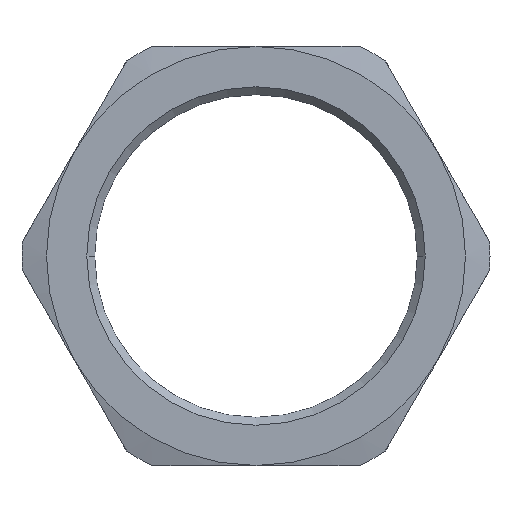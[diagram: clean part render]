
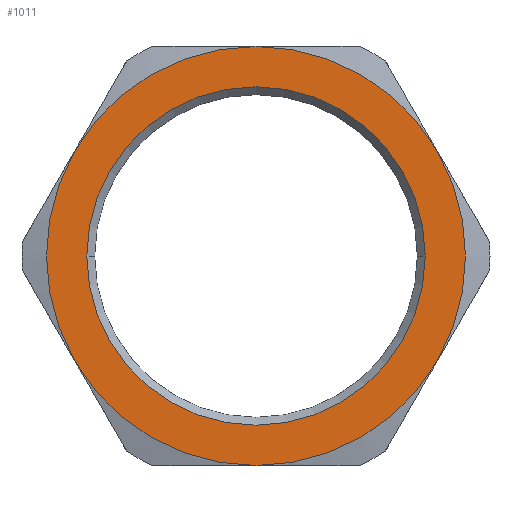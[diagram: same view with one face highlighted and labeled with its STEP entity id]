
A CAD part, left-side view. The second image highlights one B-rep face of the part: STEP entity #1011.
In plain terms, the highlighted planar face has unit normal (-1, 0, 0) as drawn and (0, 0, 1) by its records, which use the part's own axes.
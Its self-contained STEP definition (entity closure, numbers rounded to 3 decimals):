
#299=CARTESIAN_POINT('',(0.,26.25,5.));
#300=VERTEX_POINT('',#299);
#314=CARTESIAN_POINT('',(0.,-26.25,5.0));
#315=VERTEX_POINT('',#314);
#322=CARTESIAN_POINT('',(0.,0.,5.0));
#323=DIRECTION('',(0.0,0.0,-1.0));
#324=DIRECTION('',(0.0,1.0,0.0));
#325=AXIS2_PLACEMENT_3D('',#322,#323,#324);
#326=CIRCLE('',#325,26.25);
#327=EDGE_CURVE('',#300,#315,#326,.T.);
#338=CARTESIAN_POINT('',(0.,0.,5.0));
#339=DIRECTION('',(0.0,0.0,-1.0));
#340=DIRECTION('',(0.0,1.0,0.0));
#341=AXIS2_PLACEMENT_3D('',#338,#339,#340);
#342=CIRCLE('',#341,26.25);
#343=EDGE_CURVE('',#315,#300,#342,.T.);
#626=CARTESIAN_POINT('',(-32.5,0.,5.));
#627=VERTEX_POINT('',#626);
#641=CARTESIAN_POINT('',(-16.25,28.146,5.));
#642=VERTEX_POINT('',#641);
#643=CARTESIAN_POINT('',(0.,0.0,5.0));
#644=DIRECTION('',(0.0,0.0,1.0));
#645=DIRECTION('',(1.0,0.0,0.0));
#646=AXIS2_PLACEMENT_3D('',#643,#644,#645);
#647=CIRCLE('',#646,32.5);
#648=EDGE_CURVE('',#642,#627,#647,.T.);
#702=CARTESIAN_POINT('',(-16.25,-28.146,5.));
#703=VERTEX_POINT('',#702);
#717=CARTESIAN_POINT('',(0.,0.0,5.0));
#718=DIRECTION('',(0.0,0.0,1.0));
#719=DIRECTION('',(1.0,0.0,0.0));
#720=AXIS2_PLACEMENT_3D('',#717,#718,#719);
#721=CIRCLE('',#720,32.5);
#722=EDGE_CURVE('',#627,#703,#721,.T.);
#764=CARTESIAN_POINT('',(16.25,-28.146,5.));
#765=VERTEX_POINT('',#764);
#779=CARTESIAN_POINT('',(0.,0.0,5.0));
#780=DIRECTION('',(0.0,0.0,1.0));
#781=DIRECTION('',(1.0,0.0,0.0));
#782=AXIS2_PLACEMENT_3D('',#779,#780,#781);
#783=CIRCLE('',#782,32.5);
#784=EDGE_CURVE('',#703,#765,#783,.T.);
#827=CARTESIAN_POINT('',(32.5,0.0,5.));
#828=VERTEX_POINT('',#827);
#842=CARTESIAN_POINT('',(0.,0.0,5.0));
#843=DIRECTION('',(0.0,0.0,1.0));
#844=DIRECTION('',(1.0,0.0,0.0));
#845=AXIS2_PLACEMENT_3D('',#842,#843,#844);
#846=CIRCLE('',#845,32.5);
#847=EDGE_CURVE('',#765,#828,#846,.T.);
#872=CARTESIAN_POINT('',(16.25,28.146,5.));
#873=VERTEX_POINT('',#872);
#874=CARTESIAN_POINT('',(0.,0.0,5.0));
#875=DIRECTION('',(0.0,0.0,1.0));
#876=DIRECTION('',(1.0,0.0,0.0));
#877=AXIS2_PLACEMENT_3D('',#874,#875,#876);
#878=CIRCLE('',#877,32.5);
#879=EDGE_CURVE('',#873,#642,#878,.T.);
#917=CARTESIAN_POINT('',(0.,0.0,5.0));
#918=DIRECTION('',(0.0,0.0,1.0));
#919=DIRECTION('',(1.0,0.0,0.0));
#920=AXIS2_PLACEMENT_3D('',#917,#918,#919);
#921=CIRCLE('',#920,32.5);
#922=EDGE_CURVE('',#828,#873,#921,.T.);
#994=CARTESIAN_POINT('',(0.,0.,5.0));
#995=DIRECTION('',(0.0,0.0,1.0));
#996=DIRECTION('',(1.0,0.0,0.0));
#997=AXIS2_PLACEMENT_3D('',#994,#995,#996);
#998=PLANE('',#997);
#999=ORIENTED_EDGE('',*,*,#847,.T.);
#1000=ORIENTED_EDGE('',*,*,#922,.T.);
#1001=ORIENTED_EDGE('',*,*,#879,.T.);
#1002=ORIENTED_EDGE('',*,*,#648,.T.);
#1003=ORIENTED_EDGE('',*,*,#722,.T.);
#1004=ORIENTED_EDGE('',*,*,#784,.T.);
#1005=EDGE_LOOP('',(#999,#1000,#1001,#1002,#1003,#1004));
#1006=FACE_OUTER_BOUND('',#1005,.T.);
#1007=ORIENTED_EDGE('',*,*,#327,.T.);
#1008=ORIENTED_EDGE('',*,*,#343,.T.);
#1009=EDGE_LOOP('',(#1007,#1008));
#1010=FACE_BOUND('',#1009,.T.);
#1011=ADVANCED_FACE('',(#1006,#1010),#998,.T.);
